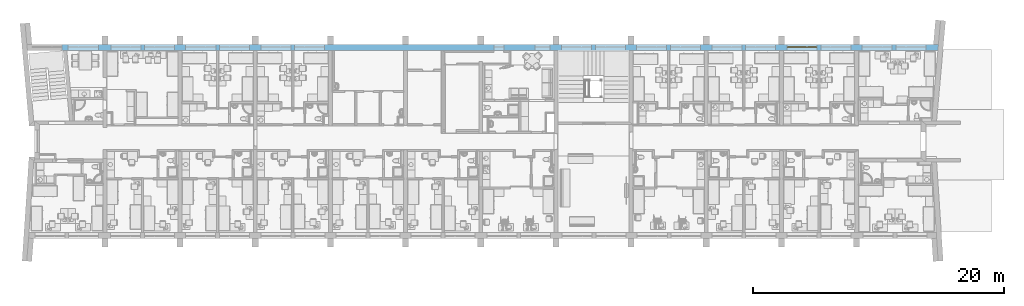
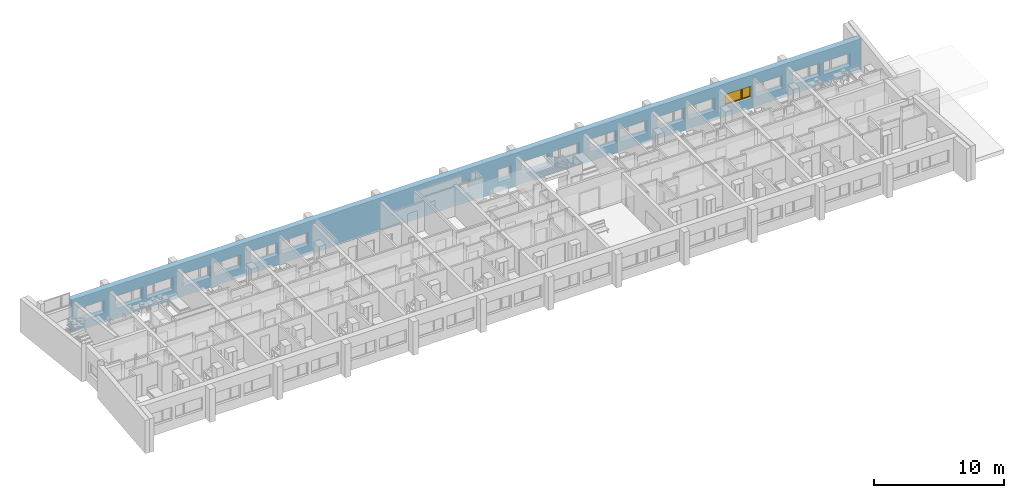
# One storey, part 30 of 172: 1 window, 19 openings, plus 1 element that does not belong to this part.
"""IFC2X3 building model written with IfcOpenShell, lengths in millimetres."""

from ifc_helpers import new_model, entity, si_unit, converted_unit, money_unit, direction, frame, origin_with_axes, place, context, subcontext, project, spatial, polyline, outline, extrude, open_shell, faceted_brep, surface_model, source, transform, mapped, material, material_list, layer, layer_set, layer_usage, type_object, element, fill, save


model = new_model("IFC2X3")

# Units and contexts
model_context = context("Model", 3, precision=1e-05, world=origin_with_axes(), true_north=direction((0.0, 1.0)))
body_context = subcontext(model_context, "Body", "Model", "MODEL_VIEW")
ifc_project = project(units=[si_unit("LENGTHUNIT", "METRE", prefix="MILLI"), si_unit("AREAUNIT", "SQUARE_METRE"), si_unit("VOLUMEUNIT", "CUBIC_METRE"), converted_unit("PLANEANGLEUNIT", "DEGREE", entity("IfcPlaneAngleMeasure", 0.0174532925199), si_unit("PLANEANGLEUNIT", "RADIAN"), dimensions=[0, 0, 0, 0, 0, 0, 0]), si_unit("SOLIDANGLEUNIT", "STERADIAN"), money_unit("USD"), converted_unit("TIMEUNIT", "Year", entity("IfcTimeMeasure", 31556926.0), si_unit("TIMEUNIT", "SECOND"), dimensions=[0, 0, 0, 0, 0, 0, 0]), si_unit("MASSUNIT", "GRAM"), si_unit("THERMODYNAMICTEMPERATUREUNIT", "DEGREE_CELSIUS"), si_unit("LUMINOUSINTENSITYUNIT", "LUMEN")], contexts=[model_context])

# Site, building, storey
site_placement = place(None, origin_with_axes())
site = spatial("IfcSite", under=ifc_project, at=site_placement, Name="Site", CompositionType="ELEMENT")
building_placement = place(site_placement, origin_with_axes())
building = spatial("IfcBuilding", under=site, at=building_placement, Name="Building", CompositionType="ELEMENT")
storey_placement = place(building_placement, frame((0.0, 0.0, 3200.0), z_axis=(0.0, 0.0, 1.0), x_axis=(1.0, 0.0, 0.0)))
storey = spatial("IfcBuildingStorey", under=building, at=storey_placement, Name="3KORRUS", CompositionType="ELEMENT", Elevation=3200.0)

# Wall, openings, window
ifc_material_1 = material(Name="Olemasolevad seinad tellis, uus viimistlus")
ifc_layer = layer(ifc_material_1, 500.0, ventilated="UNKNOWN")
ifc_layer_set = layer_set([ifc_layer], Name="Olemasolevad seinad tellis, uus viimistlus 500")
ifc_layer_usage = layer_usage(ifc_layer_set, "AXIS2", "POSITIVE", -100.0)
wall_type = type_object("IfcWallType", Name="Olemasolevad seinad tellis, uus viimistlus 500", PredefinedType="NOTDEFINED")
wall_placement = place(storey_placement, frame((-51569.3388124, -5039.6041088, 0.0), z_axis=(0.0, 0.0, 1.0), x_axis=(1.0, 0.0, 0.0)))
wall = element("IfcWallStandardCase", 1, at=wall_placement, inside=storey, type_object=wall_type, material=ifc_layer_usage, Name="VS1", ObjectType="VS1", context=body_context, shape_type="SweptSolid", body=[
    extrude(outline(polyline([(0.0, -100.0), (69914.7195482, -100.0), (69959.6995146, 400.0), (0.0, 400.0), (0.0, -100.0)])), origin_with_axes(), (0.0, 0.0, 1.0), 3100.0),
])
opening_1_placement = place(wall_placement, frame((34879.0421091, 0.0, 900.0), z_axis=(0.0, 0.0, 1.0), x_axis=(1.0, 0.0, 0.0)))
element("IfcOpeningElement", 2, at=opening_1_placement, cuts=wall, Name="WD - 001", context=body_context, shape_type="SweptSolid", body=[
    extrude(outline(polyline([(-400.0, 1200.0), (-400.0, 0.0), (400.0, 0.0), (400.0, 1200.0), (-400.0, 1200.0)])), frame((0.0, 200.0, 0.0), z_axis=(0.0, -1.0, 0.0), x_axis=(1.0, 0.0, 0.0)), (0.0, 0.0, 1.0), 800.0),
    extrude(outline(polyline([(-400.0, 0.0), (-400.0, -1200.0), (400.0, -1200.0), (400.0, 0.0), (-400.0, 0.0)])), frame((0.0, 200.0, 0.0), z_axis=(0.0, 1.0, 0.0), x_axis=(1.0, 0.0, 0.0)), (0.0, 0.0, 1.0), 700.0),
])
opening_2_placement = place(wall_placement, frame((38352.6323068, 0.0, 900.0), z_axis=(0.0, 0.0, 1.0), x_axis=(1.0, 0.0, 0.0)))
element("IfcOpeningElement", 3, at=opening_2_placement, cuts=wall, Name="A3", context=body_context, shape_type="SweptSolid", body=[
    extrude(outline(polyline([(-600.0, 1200.0), (-600.0, 0.0), (600.0, 0.0), (600.0, 1200.0), (-600.0, 1200.0)])), frame((0.0, 200.0, 0.0), z_axis=(0.0, -1.0, 0.0), x_axis=(1.0, 0.0, 0.0)), (0.0, 0.0, 1.0), 800.0),
    extrude(outline(polyline([(-600.0, 0.0), (-600.0, -1200.0), (600.0, -1200.0), (600.0, 0.0), (-600.0, 0.0)])), frame((0.0, 200.0, 0.0), z_axis=(0.0, 1.0, 0.0), x_axis=(1.0, 0.0, 0.0)), (0.0, 0.0, 1.0), 700.0),
])
opening_3_placement = place(wall_placement, frame((1700.0, 0.0, 900.0), z_axis=(0.0, 0.0, 1.0), x_axis=(1.0, 0.0, 0.0)))
element("IfcOpeningElement", 4, at=opening_3_placement, cuts=wall, Name="A1", context=body_context, shape_type="SweptSolid", body=[
    extrude(outline(polyline([(1200.0, 1200.0), (-1200.0, 1200.0), (-1200.0, 0.0), (1200.0, 0.0), (1200.0, 1200.0)])), frame((0.0, 200.0, 0.0), z_axis=(0.0, -1.0, 0.0), x_axis=(1.0, 0.0, 0.0)), (0.0, 0.0, 1.0), 800.0),
    extrude(outline(polyline([(1200.0, 0.0), (-1200.0, 0.0), (-1200.0, -1200.0), (1200.0, -1200.0), (1200.0, 0.0)])), frame((0.0, 200.0, 0.0), z_axis=(0.0, 1.0, 0.0), x_axis=(1.0, 0.0, 0.0)), (0.0, 0.0, 1.0), 700.0),
])
opening_4_placement = place(wall_placement, frame((7795.91085613, 0.0, 900.0), z_axis=(0.0, 0.0, 1.0), x_axis=(1.0, 0.0, 0.0)))
element("IfcOpeningElement", 5, at=opening_4_placement, cuts=wall, Name="A1", context=body_context, shape_type="SweptSolid", body=[
    extrude(outline(polyline([(1200.0, 1200.0), (-1200.0, 1200.0), (-1200.0, 0.0), (1200.0, 0.0), (1200.0, 1200.0)])), frame((0.0, 200.0, 0.0), z_axis=(0.0, -1.0, 0.0), x_axis=(1.0, 0.0, 0.0)), (0.0, 0.0, 1.0), 800.0),
    extrude(outline(polyline([(1200.0, 0.0), (-1200.0, 0.0), (-1200.0, -1200.0), (1200.0, -1200.0), (1200.0, 0.0)])), frame((0.0, 200.0, 0.0), z_axis=(0.0, 1.0, 0.0), x_axis=(1.0, 0.0, 0.0)), (0.0, 0.0, 1.0), 700.0),
])
opening_5_placement = place(wall_placement, frame((5095.91085613, 0.0, 900.0), z_axis=(0.0, 0.0, 1.0), x_axis=(1.0, 0.0, 0.0)))
element("IfcOpeningElement", 6, at=opening_5_placement, cuts=wall, Name="A2", context=body_context, shape_type="SweptSolid", body=[
    extrude(outline(polyline([(-1200.0, 1200.0), (-1200.0, 0.0), (1200.0, 0.0), (1200.0, 1200.0), (-1200.0, 1200.0)])), frame((0.0, 200.0, 0.0), z_axis=(0.0, -1.0, 0.0), x_axis=(1.0, 0.0, 0.0)), (0.0, 0.0, 1.0), 800.0),
    extrude(outline(polyline([(-1200.0, 0.0), (-1200.0, -1200.0), (1200.0, -1200.0), (1200.0, 0.0), (-1200.0, 0.0)])), frame((0.0, 200.0, 0.0), z_axis=(0.0, 1.0, 0.0), x_axis=(1.0, 0.0, 0.0)), (0.0, 0.0, 1.0), 700.0),
])
opening_6_placement = place(wall_placement, frame((13779.0421091, 0.0, 900.0), z_axis=(0.0, 0.0, 1.0), x_axis=(1.0, 0.0, 0.0)))
element("IfcOpeningElement", 7, at=opening_6_placement, cuts=wall, Name="A1", context=body_context, shape_type="SweptSolid", body=[
    extrude(outline(polyline([(1200.0, 1200.0), (-1200.0, 1200.0), (-1200.0, 0.0), (1200.0, 0.0), (1200.0, 1200.0)])), frame((0.0, 200.0, 0.0), z_axis=(0.0, -1.0, 0.0), x_axis=(1.0, 0.0, 0.0)), (0.0, 0.0, 1.0), 800.0),
    extrude(outline(polyline([(1200.0, 0.0), (-1200.0, 0.0), (-1200.0, -1200.0), (1200.0, -1200.0), (1200.0, 0.0)])), frame((0.0, 200.0, 0.0), z_axis=(0.0, 1.0, 0.0), x_axis=(1.0, 0.0, 0.0)), (0.0, 0.0, 1.0), 700.0),
])
opening_7_placement = place(wall_placement, frame((11079.0421091, 0.0, 900.0), z_axis=(0.0, 0.0, 1.0), x_axis=(1.0, 0.0, 0.0)))
element("IfcOpeningElement", 8, at=opening_7_placement, cuts=wall, Name="A2", context=body_context, shape_type="SweptSolid", body=[
    extrude(outline(polyline([(-1200.0, 1200.0), (-1200.0, 0.0), (1200.0, 0.0), (1200.0, 1200.0), (-1200.0, 1200.0)])), frame((0.0, 200.0, 0.0), z_axis=(0.0, -1.0, 0.0), x_axis=(1.0, 0.0, 0.0)), (0.0, 0.0, 1.0), 800.0),
    extrude(outline(polyline([(-1200.0, 0.0), (-1200.0, -1200.0), (1200.0, -1200.0), (1200.0, 0.0), (-1200.0, 0.0)])), frame((0.0, 200.0, 0.0), z_axis=(0.0, 1.0, 0.0), x_axis=(1.0, 0.0, 0.0)), (0.0, 0.0, 1.0), 700.0),
])
opening_8_placement = place(wall_placement, frame((43769.0421091, 0.0, 900.0), z_axis=(0.0, 0.0, 1.0), x_axis=(1.0, 0.0, 0.0)))
element("IfcOpeningElement", 9, at=opening_8_placement, cuts=wall, Name="A1", context=body_context, shape_type="SweptSolid", body=[
    extrude(outline(polyline([(1200.0, 1200.0), (-1200.0, 1200.0), (-1200.0, 0.0), (1200.0, 0.0), (1200.0, 1200.0)])), frame((0.0, 200.0, 0.0), z_axis=(0.0, -1.0, 0.0), x_axis=(1.0, 0.0, 0.0)), (0.0, 0.0, 1.0), 800.0),
    extrude(outline(polyline([(1200.0, 0.0), (-1200.0, 0.0), (-1200.0, -1200.0), (1200.0, -1200.0), (1200.0, 0.0)])), frame((0.0, 200.0, 0.0), z_axis=(0.0, 1.0, 0.0), x_axis=(1.0, 0.0, 0.0)), (0.0, 0.0, 1.0), 700.0),
])
opening_9_placement = place(wall_placement, frame((41069.0421091, 0.0, 900.0), z_axis=(0.0, 0.0, 1.0), x_axis=(1.0, 0.0, 0.0)))
element("IfcOpeningElement", 10, at=opening_9_placement, cuts=wall, Name="A2", context=body_context, shape_type="SweptSolid", body=[
    extrude(outline(polyline([(-1200.0, 1200.0), (-1200.0, 0.0), (1200.0, 0.0), (1200.0, 1200.0), (-1200.0, 1200.0)])), frame((0.0, 200.0, 0.0), z_axis=(0.0, -1.0, 0.0), x_axis=(1.0, 0.0, 0.0)), (0.0, 0.0, 1.0), 800.0),
    extrude(outline(polyline([(-1200.0, 0.0), (-1200.0, -1200.0), (1200.0, -1200.0), (1200.0, 0.0), (-1200.0, 0.0)])), frame((0.0, 200.0, 0.0), z_axis=(0.0, 1.0, 0.0), x_axis=(1.0, 0.0, 0.0)), (0.0, 0.0, 1.0), 700.0),
])
opening_10_placement = place(wall_placement, frame((49769.0421091, 0.0, 900.0), z_axis=(0.0, 0.0, 1.0), x_axis=(1.0, 0.0, 0.0)))
element("IfcOpeningElement", 11, at=opening_10_placement, cuts=wall, Name="A1", context=body_context, shape_type="SweptSolid", body=[
    extrude(outline(polyline([(1200.0, 1200.0), (-1200.0, 1200.0), (-1200.0, 0.0), (1200.0, 0.0), (1200.0, 1200.0)])), frame((0.0, 200.0, 0.0), z_axis=(0.0, -1.0, 0.0), x_axis=(1.0, 0.0, 0.0)), (0.0, 0.0, 1.0), 800.0),
    extrude(outline(polyline([(1200.0, 0.0), (-1200.0, 0.0), (-1200.0, -1200.0), (1200.0, -1200.0), (1200.0, 0.0)])), frame((0.0, 200.0, 0.0), z_axis=(0.0, 1.0, 0.0), x_axis=(1.0, 0.0, 0.0)), (0.0, 0.0, 1.0), 700.0),
])
opening_11_placement = place(wall_placement, frame((47069.0421091, 0.0, 900.0), z_axis=(0.0, 0.0, 1.0), x_axis=(1.0, 0.0, 0.0)))
element("IfcOpeningElement", 12, at=opening_11_placement, cuts=wall, Name="A2", context=body_context, shape_type="SweptSolid", body=[
    extrude(outline(polyline([(-1200.0, 1200.0), (-1200.0, 0.0), (1200.0, 0.0), (1200.0, 1200.0), (-1200.0, 1200.0)])), frame((0.0, 200.0, 0.0), z_axis=(0.0, -1.0, 0.0), x_axis=(1.0, 0.0, 0.0)), (0.0, 0.0, 1.0), 800.0),
    extrude(outline(polyline([(-1200.0, 0.0), (-1200.0, -1200.0), (1200.0, -1200.0), (1200.0, 0.0), (-1200.0, 0.0)])), frame((0.0, 200.0, 0.0), z_axis=(0.0, 1.0, 0.0), x_axis=(1.0, 0.0, 0.0)), (0.0, 0.0, 1.0), 700.0),
])
opening_12_placement = place(wall_placement, frame((55769.0421091, 0.0, 900.0), z_axis=(0.0, 0.0, 1.0), x_axis=(1.0, 0.0, 0.0)))
element("IfcOpeningElement", 13, at=opening_12_placement, cuts=wall, Name="A1", context=body_context, shape_type="SweptSolid", body=[
    extrude(outline(polyline([(1200.0, 1200.0), (-1200.0, 1200.0), (-1200.0, 0.0), (1200.0, 0.0), (1200.0, 1200.0)])), frame((0.0, 200.0, 0.0), z_axis=(0.0, -1.0, 0.0), x_axis=(1.0, 0.0, 0.0)), (0.0, 0.0, 1.0), 800.0),
    extrude(outline(polyline([(1200.0, 0.0), (-1200.0, 0.0), (-1200.0, -1200.0), (1200.0, -1200.0), (1200.0, 0.0)])), frame((0.0, 200.0, 0.0), z_axis=(0.0, 1.0, 0.0), x_axis=(1.0, 0.0, 0.0)), (0.0, 0.0, 1.0), 700.0),
])
opening_13_placement = place(wall_placement, frame((53069.0421091, 0.0, 900.0), z_axis=(0.0, 0.0, 1.0), x_axis=(1.0, 0.0, 0.0)))
element("IfcOpeningElement", 14, at=opening_13_placement, cuts=wall, Name="A2", context=body_context, shape_type="SweptSolid", body=[
    extrude(outline(polyline([(-1200.0, 1200.0), (-1200.0, 0.0), (1200.0, 0.0), (1200.0, 1200.0), (-1200.0, 1200.0)])), frame((0.0, 200.0, 0.0), z_axis=(0.0, -1.0, 0.0), x_axis=(1.0, 0.0, 0.0)), (0.0, 0.0, 1.0), 800.0),
    extrude(outline(polyline([(-1200.0, 0.0), (-1200.0, -1200.0), (1200.0, -1200.0), (1200.0, 0.0), (-1200.0, 0.0)])), frame((0.0, 200.0, 0.0), z_axis=(0.0, 1.0, 0.0), x_axis=(1.0, 0.0, 0.0)), (0.0, 0.0, 1.0), 700.0),
])
opening_14_placement = place(wall_placement, frame((61769.0421091, 0.0, 900.0), z_axis=(0.0, 0.0, 1.0), x_axis=(1.0, 0.0, 0.0)))
element("IfcOpeningElement", 15, at=opening_14_placement, cuts=wall, Name="A1", context=body_context, shape_type="SweptSolid", body=[
    extrude(outline(polyline([(1200.0, 1200.0), (-1200.0, 1200.0), (-1200.0, 0.0), (1200.0, 0.0), (1200.0, 1200.0)])), frame((0.0, 200.0, 0.0), z_axis=(0.0, -1.0, 0.0), x_axis=(1.0, 0.0, 0.0)), (0.0, 0.0, 1.0), 800.0),
    extrude(outline(polyline([(1200.0, 0.0), (-1200.0, 0.0), (-1200.0, -1200.0), (1200.0, -1200.0), (1200.0, 0.0)])), frame((0.0, 200.0, 0.0), z_axis=(0.0, 1.0, 0.0), x_axis=(1.0, 0.0, 0.0)), (0.0, 0.0, 1.0), 700.0),
])
opening_15_placement = place(wall_placement, frame((59069.0421091, 0.0, 900.0), z_axis=(0.0, 0.0, 1.0), x_axis=(1.0, 0.0, 0.0)))
opening_15 = element("IfcOpeningElement", 16, at=opening_15_placement, cuts=wall, Name="A2", context=body_context, shape_type="SweptSolid", body=[
    extrude(outline(polyline([(-1200.0, 1200.0), (-1200.0, 0.0), (1200.0, 0.0), (1200.0, 1200.0), (-1200.0, 1200.0)])), frame((0.0, 200.0, 0.0), z_axis=(0.0, -1.0, 0.0), x_axis=(1.0, 0.0, 0.0)), (0.0, 0.0, 1.0), 800.0),
    extrude(outline(polyline([(-1200.0, 0.0), (-1200.0, -1200.0), (1200.0, -1200.0), (1200.0, 0.0), (-1200.0, 0.0)])), frame((0.0, 200.0, 0.0), z_axis=(0.0, 1.0, 0.0), x_axis=(1.0, 0.0, 0.0)), (0.0, 0.0, 1.0), 700.0),
])
opening_16_placement = place(wall_placement, frame((67773.3244043, 0.0, 900.0), z_axis=(0.0, 0.0, 1.0), x_axis=(1.0, 0.0, 0.0)))
element("IfcOpeningElement", 17, at=opening_16_placement, cuts=wall, Name="A1", context=body_context, shape_type="SweptSolid", body=[
    extrude(outline(polyline([(1200.0, 1200.0), (-1200.0, 1200.0), (-1200.0, 0.0), (1200.0, 0.0), (1200.0, 1200.0)])), frame((0.0, 200.0, 0.0), z_axis=(0.0, -1.0, 0.0), x_axis=(1.0, 0.0, 0.0)), (0.0, 0.0, 1.0), 800.0),
    extrude(outline(polyline([(1200.0, 0.0), (-1200.0, 0.0), (-1200.0, -1200.0), (1200.0, -1200.0), (1200.0, 0.0)])), frame((0.0, 200.0, 0.0), z_axis=(0.0, 1.0, 0.0), x_axis=(1.0, 0.0, 0.0)), (0.0, 0.0, 1.0), 700.0),
])
opening_17_placement = place(wall_placement, frame((65073.3244043, 0.0, 900.0), z_axis=(0.0, 0.0, 1.0), x_axis=(1.0, 0.0, 0.0)))
element("IfcOpeningElement", 18, at=opening_17_placement, cuts=wall, Name="A2", context=body_context, shape_type="SweptSolid", body=[
    extrude(outline(polyline([(-1200.0, 1200.0), (-1200.0, 0.0), (1200.0, 0.0), (1200.0, 1200.0), (-1200.0, 1200.0)])), frame((0.0, 200.0, 0.0), z_axis=(0.0, -1.0, 0.0), x_axis=(1.0, 0.0, 0.0)), (0.0, 0.0, 1.0), 800.0),
    extrude(outline(polyline([(-1200.0, 0.0), (-1200.0, -1200.0), (1200.0, -1200.0), (1200.0, 0.0), (-1200.0, 0.0)])), frame((0.0, 200.0, 0.0), z_axis=(0.0, 1.0, 0.0), x_axis=(1.0, 0.0, 0.0)), (0.0, 0.0, 1.0), 700.0),
])
opening_18_placement = place(wall_placement, frame((19767.4765851, 0.0, 900.0), z_axis=(0.0, 0.0, 1.0), x_axis=(1.0, 0.0, 0.0)))
element("IfcOpeningElement", 19, at=opening_18_placement, cuts=wall, Name="A1", context=body_context, shape_type="SweptSolid", body=[
    extrude(outline(polyline([(1200.0, 1200.0), (-1200.0, 1200.0), (-1200.0, 0.0), (1200.0, 0.0), (1200.0, 1200.0)])), frame((0.0, 200.0, 0.0), z_axis=(0.0, -1.0, 0.0), x_axis=(1.0, 0.0, 0.0)), (0.0, 0.0, 1.0), 800.0),
    extrude(outline(polyline([(1200.0, 0.0), (-1200.0, 0.0), (-1200.0, -1200.0), (1200.0, -1200.0), (1200.0, 0.0)])), frame((0.0, 200.0, 0.0), z_axis=(0.0, 1.0, 0.0), x_axis=(1.0, 0.0, 0.0)), (0.0, 0.0, 1.0), 700.0),
])
opening_19_placement = place(wall_placement, frame((17067.4765851, 0.0, 900.0), z_axis=(0.0, 0.0, 1.0), x_axis=(1.0, 0.0, 0.0)))
element("IfcOpeningElement", 20, at=opening_19_placement, cuts=wall, Name="A2", context=body_context, shape_type="SweptSolid", body=[
    extrude(outline(polyline([(-1200.0, 1200.0), (-1200.0, 0.0), (1200.0, 0.0), (1200.0, 1200.0), (-1200.0, 1200.0)])), frame((0.0, 200.0, 0.0), z_axis=(0.0, -1.0, 0.0), x_axis=(1.0, 0.0, 0.0)), (0.0, 0.0, 1.0), 800.0),
    extrude(outline(polyline([(-1200.0, 0.0), (-1200.0, -1200.0), (1200.0, -1200.0), (1200.0, 0.0), (-1200.0, 0.0)])), frame((0.0, 200.0, 0.0), z_axis=(0.0, 1.0, 0.0), x_axis=(1.0, 0.0, 0.0)), (0.0, 0.0, 1.0), 700.0),
])
ifc_material_2 = material(Name="Background")
ifc_material_list = material_list([ifc_material_2])
window_style = type_object("IfcWindowStyle", Name="Double Window 19", ConstructionType="NOTDEFINED", OperationType="DOUBLE_PANEL_VERTICAL", ParameterTakesPrecedence=False, Sizeable=False)
shared_shape = source(origin_with_axes(), body_context, "Body", "SurfaceModel", [
    faceted_brep([(-1175.0, -200.0, 1150.0), (-1200.0, -200.0, 1150.0), (-1200.0, -250.0, 1150.0), (-1150.0, -250.0, 1150.0), (-1150.0, -225.0, 1150.0), (-1175.0, -225.0, 1150.0), (-1175.0, -200.0, 50.0), (-1200.0, -200.0, 50.0), (-1200.0, -250.0, 50.0), (-1150.0, -250.0, 50.0), (-1150.0, -225.0, 50.0), (-1175.0, -225.0, 50.0)], [[[0, 1, 2, 3, 4, 5]], [[6, 7, 1, 0]], [[1, 7, 8, 2]], [[2, 8, 9, 3]], [[4, 3, 9, 10]], [[10, 11, 5, 4]], [[5, 11, 6, 0]], [[11, 10, 9, 8, 7, 6]]]),
    faceted_brep([(1150.0, -225.0, 1150.0), (1150.0, -250.0, 1150.0), (1200.0, -250.0, 1150.0), (1200.0, -200.0, 1150.0), (1175.0, -200.0, 1150.0), (1175.0, -225.0, 1150.0), (1150.0, -225.0, 50.0), (1150.0, -250.0, 50.0), (1200.0, -250.0, 50.0), (1200.0, -200.0, 50.0), (1175.0, -200.0, 50.0), (1175.0, -225.0, 50.0)], [[[0, 1, 2, 3, 4, 5]], [[6, 7, 1, 0]], [[8, 2, 1, 7]], [[9, 3, 2, 8]], [[4, 3, 9, 10]], [[10, 11, 5, 4]], [[5, 11, 6, 0]], [[11, 10, 9, 8, 7, 6]]]),
    faceted_brep([(350.0, -225.0, 1150.0), (350.0, -250.0, 1150.0), (450.0, -250.0, 1150.0), (450.0, -225.0, 1150.0), (425.0, -225.0, 1150.0), (425.0, -200.0, 1150.0), (375.0, -200.0, 1150.0), (375.0, -225.0, 1150.0), (350.0, -225.0, 50.0), (350.0, -250.0, 50.0), (450.0, -250.0, 50.0), (450.0, -225.0, 50.0), (425.0, -225.0, 50.0), (425.0, -200.0, 50.0), (375.0, -200.0, 50.0), (375.0, -225.0, 50.0)], [[[0, 1, 2, 3, 4, 5, 6, 7]], [[8, 9, 1, 0]], [[10, 2, 1, 9]], [[3, 2, 10, 11]], [[11, 12, 4, 3]], [[4, 12, 13, 5]], [[6, 5, 13, 14]], [[14, 15, 7, 6]], [[7, 15, 8, 0]], [[15, 14, 13, 12, 11, 10, 9, 8]]]),
    faceted_brep([(350.0, -225.0, 50.0), (350.0, -250.0, 50.0), (450.0, -250.0, 50.0), (450.0, -225.0, 50.0), (425.0, -225.0, 50.0), (425.0, -200.0, 50.0), (375.0, -200.0, 50.0), (375.0, -225.0, 50.0), (-1150.0, -225.0, 50.0), (-1150.0, -250.0, 50.0), (-1200.0, -250.0, 50.0), (-1200.0, -250.0, 0.0), (1200.0, -250.0, 0.0), (1200.0, -250.0, 50.0), (1150.0, -250.0, 50.0), (1150.0, -225.0, 50.0), (1175.0, -225.0, 50.0), (1175.0, -225.0, 25.0), (425.0, -225.0, 25.0), (425.0, -200.0, 25.0), (-1175.0, -200.0, 25.0), (375.0, -200.0, 25.0), (1175.0, -200.0, 25.0), (1175.0, -200.0, 50.0), (1200.0, -200.0, 50.0), (1200.0, -200.0, 0.0), (-1200.0, -200.0, 0.0), (-1200.0, -200.0, 50.0), (-1175.0, -200.0, 50.0), (375.0, -225.0, 25.0), (-1175.0, -225.0, 25.0), (-1175.0, -225.0, 50.0)], [[[0, 1, 2, 3, 4, 5, 6, 7]], [[8, 9, 1, 0]], [[10, 11, 12, 13, 14, 2, 1, 9]], [[3, 2, 14, 15]], [[16, 17, 18, 4, 3, 15]], [[4, 18, 19, 5]], [[20, 21, 6, 5, 19, 22, 23, 24, 25, 26, 27, 28]], [[21, 29, 7, 6]], [[7, 29, 30, 31, 8, 0]], [[31, 28, 27, 10, 9, 8]], [[27, 26, 11, 10]], [[26, 25, 12, 11]], [[25, 24, 13, 12]], [[15, 14, 13, 24, 23, 16]], [[22, 17, 16, 23]], [[19, 18, 17, 22]], [[20, 30, 29, 21]], [[31, 30, 20, 28]]]),
    faceted_brep([(-1175.0, -200.0, 1150.0), (-1200.0, -200.0, 1150.0), (-1200.0, -200.0, 1200.0), (1200.0, -200.0, 1200.0), (1200.0, -200.0, 1150.0), (1175.0, -200.0, 1150.0), (1175.0, -200.0, 1175.0), (425.0, -200.0, 1175.0), (425.0, -200.0, 1150.0), (375.0, -200.0, 1150.0), (375.0, -200.0, 1175.0), (-1175.0, -200.0, 1175.0), (-1175.0, -225.0, 1150.0), (-1150.0, -225.0, 1150.0), (-1150.0, -250.0, 1150.0), (-1200.0, -250.0, 1150.0), (-1200.0, -250.0, 1200.0), (1200.0, -250.0, 1200.0), (1200.0, -250.0, 1150.0), (1175.0, -225.0, 1150.0), (1150.0, -250.0, 1150.0), (1150.0, -225.0, 1150.0), (1175.0, -225.0, 1175.0), (425.0, -225.0, 1175.0), (425.0, -225.0, 1150.0), (375.0, -225.0, 1150.0), (450.0, -225.0, 1150.0), (450.0, -250.0, 1150.0), (350.0, -250.0, 1150.0), (350.0, -225.0, 1150.0), (375.0, -225.0, 1175.0), (-1175.0, -225.0, 1175.0)], [[[0, 1, 2, 3, 4, 5, 6, 7, 8, 9, 10, 11]], [[12, 13, 14, 15, 1, 0]], [[2, 1, 15, 16]], [[3, 2, 16, 17]], [[4, 3, 17, 18]], [[19, 5, 4, 18, 20, 21]], [[5, 19, 22, 6]], [[6, 22, 23, 7]], [[7, 23, 24, 8]], [[25, 9, 8, 24, 26, 27, 28, 29]], [[9, 25, 30, 10]], [[10, 30, 31, 11]], [[11, 31, 12, 0]], [[29, 13, 12, 31, 30, 25]], [[29, 28, 14, 13]], [[27, 20, 18, 17, 16, 15, 14, 28]], [[21, 20, 27, 26]], [[21, 26, 24, 23, 22, 19]]]),
    faceted_brep([(-1125.0, -225.0, 1125.0), (-1125.0, -175.0, 1125.0), (-1175.0, -175.0, 1125.0), (-1175.0, -225.0, 1125.0), (-1125.0, -225.0, 75.0), (-1125.0, -175.0, 75.0), (-1175.0, -175.0, 75.0), (-1175.0, -225.0, 75.0)], [[[0, 1, 2, 3]], [[4, 5, 1, 0]], [[1, 5, 6, 2]], [[3, 2, 6, 7]], [[0, 3, 7, 4]], [[7, 6, 5, 4]]]),
    faceted_brep([(325.0, -225.0, 75.0), (325.0, -175.0, 75.0), (375.0, -175.0, 75.0), (375.0, -225.0, 75.0), (325.0, -225.0, 1125.0), (325.0, -175.0, 1125.0), (375.0, -175.0, 1125.0), (375.0, -225.0, 1125.0)], [[[0, 1, 2, 3]], [[4, 5, 1, 0]], [[1, 5, 6, 2]], [[3, 2, 6, 7]], [[0, 3, 7, 4]], [[7, 6, 5, 4]]]),
    faceted_brep([(375.0, -225.0, 25.0), (375.0, -175.0, 25.0), (375.0, -175.0, 75.0), (375.0, -225.0, 75.0), (-1175.0, -225.0, 25.0), (-1175.0, -175.0, 25.0), (-1175.0, -175.0, 75.0), (-1125.0, -175.0, 75.0), (325.0, -175.0, 75.0), (325.0, -225.0, 75.0), (-1125.0, -225.0, 75.0), (-1175.0, -225.0, 75.0)], [[[0, 1, 2, 3]], [[4, 5, 1, 0]], [[1, 5, 6, 7, 8, 2]], [[3, 2, 8, 9]], [[0, 3, 9, 10, 11, 4]], [[11, 6, 5, 4]], [[10, 7, 6, 11]], [[9, 8, 7, 10]]]),
    faceted_brep([(-1175.0, -225.0, 1175.0), (-1175.0, -175.0, 1175.0), (-1175.0, -175.0, 1125.0), (-1175.0, -225.0, 1125.0), (375.0, -225.0, 1175.0), (375.0, -175.0, 1175.0), (375.0, -175.0, 1125.0), (325.0, -175.0, 1125.0), (-1125.0, -175.0, 1125.0), (-1125.0, -225.0, 1125.0), (325.0, -225.0, 1125.0), (375.0, -225.0, 1125.0)], [[[0, 1, 2, 3]], [[4, 5, 1, 0]], [[1, 5, 6, 7, 8, 2]], [[3, 2, 8, 9]], [[0, 3, 9, 10, 11, 4]], [[11, 6, 5, 4]], [[10, 7, 6, 11]], [[9, 8, 7, 10]]]),
    surface_model("IfcShellBasedSurfaceModel", [(-1125.0, -210.0, 75.0), (325.0, -210.0, 75.0), (325.0, -210.0, 1125.0), (-1125.0, -210.0, 1125.0)], [open_shell([[[0, 1, 2, 3]]])]),
    surface_model("IfcShellBasedSurfaceModel", [(-1125.0, -190.0, 75.0), (-1125.0, -190.0, 1125.0), (325.0, -190.0, 1125.0), (325.0, -190.0, 75.0)], [open_shell([[[0, 1, 2, 3]]])]),
    faceted_brep([(475.0, -225.0, 1125.0), (475.0, -175.0, 1125.0), (425.0, -175.0, 1125.0), (425.0, -225.0, 1125.0), (475.0, -225.0, 75.0), (475.0, -175.0, 75.0), (425.0, -175.0, 75.0), (425.0, -225.0, 75.0)], [[[0, 1, 2, 3]], [[4, 5, 1, 0]], [[1, 5, 6, 2]], [[3, 2, 6, 7]], [[0, 3, 7, 4]], [[7, 6, 5, 4]]]),
    faceted_brep([(1125.0, -225.0, 75.0), (1125.0, -175.0, 75.0), (1175.0, -175.0, 75.0), (1175.0, -225.0, 75.0), (1125.0, -225.0, 1125.0), (1125.0, -175.0, 1125.0), (1175.0, -175.0, 1125.0), (1175.0, -225.0, 1125.0)], [[[0, 1, 2, 3]], [[4, 5, 1, 0]], [[1, 5, 6, 2]], [[3, 2, 6, 7]], [[0, 3, 7, 4]], [[7, 6, 5, 4]]]),
    faceted_brep([(1175.0, -225.0, 25.0), (1175.0, -175.0, 25.0), (1175.0, -175.0, 75.0), (1175.0, -225.0, 75.0), (425.0, -225.0, 25.0), (425.0, -175.0, 25.0), (425.0, -175.0, 75.0), (475.0, -175.0, 75.0), (1125.0, -175.0, 75.0), (1125.0, -225.0, 75.0), (475.0, -225.0, 75.0), (425.0, -225.0, 75.0)], [[[0, 1, 2, 3]], [[4, 5, 1, 0]], [[1, 5, 6, 7, 8, 2]], [[3, 2, 8, 9]], [[0, 3, 9, 10, 11, 4]], [[11, 6, 5, 4]], [[10, 7, 6, 11]], [[9, 8, 7, 10]]]),
    faceted_brep([(425.0, -225.0, 1175.0), (425.0, -175.0, 1175.0), (425.0, -175.0, 1125.0), (425.0, -225.0, 1125.0), (1175.0, -225.0, 1175.0), (1175.0, -175.0, 1175.0), (1175.0, -175.0, 1125.0), (1125.0, -175.0, 1125.0), (475.0, -175.0, 1125.0), (475.0, -225.0, 1125.0), (1125.0, -225.0, 1125.0), (1175.0, -225.0, 1125.0)], [[[0, 1, 2, 3]], [[4, 5, 1, 0]], [[1, 5, 6, 7, 8, 2]], [[3, 2, 8, 9]], [[0, 3, 9, 10, 11, 4]], [[11, 6, 5, 4]], [[10, 7, 6, 11]], [[9, 8, 7, 10]]]),
    surface_model("IfcShellBasedSurfaceModel", [(475.0, -210.0, 75.0), (1125.0, -210.0, 75.0), (1125.0, -210.0, 1125.0), (475.0, -210.0, 1125.0)], [open_shell([[[0, 1, 2, 3]]])]),
    surface_model("IfcShellBasedSurfaceModel", [(475.0, -190.0, 75.0), (475.0, -190.0, 1125.0), (1125.0, -190.0, 1125.0), (1125.0, -190.0, 75.0)], [open_shell([[[0, 1, 2, 3]]])]),
])
window_placement = place(opening_15_placement, frame((-1200.0, 0.0, 0.0), z_axis=(0.0, 0.0, 1.0), x_axis=(1.0, 0.0, 0.0)))
window = element("IfcWindow", 21, at=window_placement, inside=storey, type_object=window_style, material=ifc_material_list, Name="A2", ObjectType="A2", OverallHeight=1200.0, OverallWidth=2400.0, context=body_context, shape_type="MappedRepresentation", body=[
    mapped(shared_shape, transform((1200.0, 400.0, 0.0))),
])
fill(opening_15, window)

save(model, "model.ifc")
